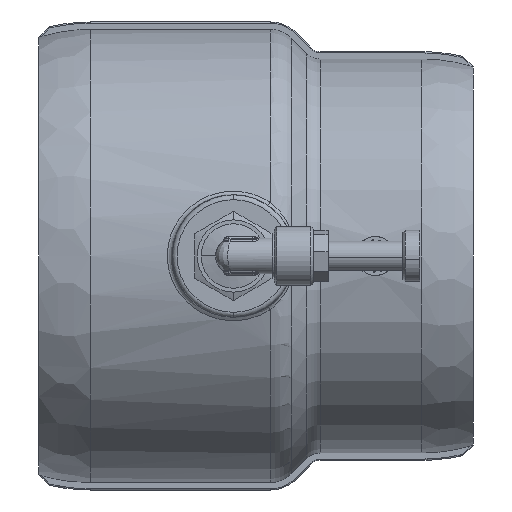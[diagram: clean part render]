
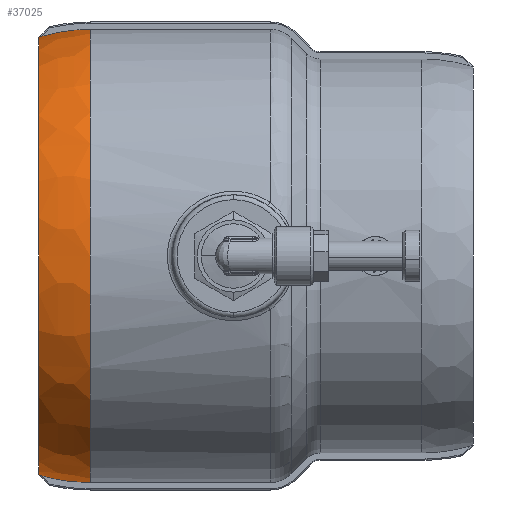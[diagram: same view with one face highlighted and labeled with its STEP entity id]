
A CAD part, front view. The second image highlights one B-rep face of the part: STEP entity #37025.
In plain terms, the highlighted toroidal (fillet/blend) face has major radius 11.3 mm and minor radius 35 mm.
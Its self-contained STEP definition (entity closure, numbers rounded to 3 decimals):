
#28444 = CARTESIAN_POINT ( 'NONE',  ( -39.254, -1., 44.828 ) ) ;
#28458 = CARTESIAN_POINT ( 'NONE',  ( -39.745, -0.805, -44.681 ) ) ;
#28480 = DIRECTION ( 'NONE',  ( 0., 0., 1. ) ) ;
#28481 = DIRECTION ( 'NONE',  ( -1., 0., 0. ) ) ;
#28482 = CARTESIAN_POINT ( 'NONE',  ( -29.247, 0., 0. ) ) ;
#28488 = CIRCLE ( 'NONE', #28492, 46.3 ) ;
#28492 = AXIS2_PLACEMENT_3D ( 'NONE', #28482, #28481, #28480 ) ;
#28511 = CARTESIAN_POINT ( 'NONE',  ( -29.247, -1., 46.289 ) ) ;
#28512 = CARTESIAN_POINT ( 'NONE',  ( -39.745, -0.805, 44.681 ) ) ;
#28519 = CARTESIAN_POINT ( 'NONE',  ( -29.247, -1., 46.289 ) ) ;
#28520 = CARTESIAN_POINT ( 'NONE',  ( -30.914, -1., 46.289 ) ) ;
#28521 = CARTESIAN_POINT ( 'NONE',  ( -32.58, -1., 46.171 ) ) ;
#28522 = CARTESIAN_POINT ( 'NONE',  ( -34.663, -1., 45.87 ) ) ;
#28523 = CARTESIAN_POINT ( 'NONE',  ( -35.078, -1., 45.803 ) ) ;
#28524 = CARTESIAN_POINT ( 'NONE',  ( -35.925, -1., 45.649 ) ) ;
#28525 = CARTESIAN_POINT ( 'NONE',  ( -36.347, -1., 45.564 ) ) ;
#28526 = CARTESIAN_POINT ( 'NONE',  ( -37.604, -1., 45.288 ) ) ;
#28527 = CARTESIAN_POINT ( 'NONE',  ( -38.433, -1., 45.073 ) ) ;
#28528 = CARTESIAN_POINT ( 'NONE',  ( -39.254, -1., 44.828 ) ) ;
#28529 = CARTESIAN_POINT ( 'NONE',  ( -39.747, 0., -44.688 ) ) ;
#28530 = B_SPLINE_CURVE_WITH_KNOTS ( 'NONE', 3,
 ( #28528, #28527, #28526, #28525, #28524, #28523, #28522, #28521, #28520, #28519 ),
 .UNSPECIFIED., .F., .F.,
 ( 4, 2, 2, 2, 4 ),
 ( 0.257, 0.26, 0.261, 0.262, 0.267 ),
 .UNSPECIFIED. ) ;
#28605 = CARTESIAN_POINT ( 'NONE',  ( -29.247, -1., -46.289 ) ) ;
#28630 = CARTESIAN_POINT ( 'NONE',  ( -39.726, -0.849, -44.687 ) ) ;
#28631 = CARTESIAN_POINT ( 'NONE',  ( -39.745, -0.805, -44.681 ) ) ;
#28632 = B_SPLINE_CURVE_WITH_KNOTS ( 'NONE', 3,
 ( #28631, #28630, #28680, #28679, #28678, #28677, #28676, #28675 ),
 .UNSPECIFIED., .F., .F.,
 ( 4, 2, 2, 4 ),
 ( 0., 0., 0., 0.001 ),
 .UNSPECIFIED. ) ;
#28647 = TOROIDAL_SURFACE ( 'NONE', #28672, 11.3, 35. ) ;
#28651 = DIRECTION ( 'NONE',  ( -1., 0., 0. ) ) ;
#28652 = CARTESIAN_POINT ( 'NONE',  ( -29.247, 0., 0. ) ) ;
#28655 = FACE_OUTER_BOUND ( 'NONE', #37026, .T. ) ;
#28657 = CARTESIAN_POINT ( 'NONE',  ( -39.254, -1., -44.828 ) ) ;
#28658 = CARTESIAN_POINT ( 'NONE',  ( -38.418, -1., -45.077 ) ) ;
#28659 = CARTESIAN_POINT ( 'NONE',  ( -37.572, -1., -45.296 ) ) ;
#28660 = CARTESIAN_POINT ( 'NONE',  ( -36.286, -1., -45.577 ) ) ;
#28661 = CARTESIAN_POINT ( 'NONE',  ( -35.8, -1., -45.673 ) ) ;
#28662 = CARTESIAN_POINT ( 'NONE',  ( -35.311, -1., -45.76 ) ) ;
#28663 = CARTESIAN_POINT ( 'NONE',  ( -35.203, -1., -45.779 ) ) ;
#28664 = CARTESIAN_POINT ( 'NONE',  ( -35.151, -1., -45.788 ) ) ;
#28665 = CARTESIAN_POINT ( 'NONE',  ( -34.997, -1., -45.814 ) ) ;
#28666 = CARTESIAN_POINT ( 'NONE',  ( -34.691, -1., -45.864 ) ) ;
#28667 = CARTESIAN_POINT ( 'NONE',  ( -34.384, -1., -45.911 ) ) ;
#28668 = CARTESIAN_POINT ( 'NONE',  ( -32.541, -1., -46.173 ) ) ;
#28669 = CARTESIAN_POINT ( 'NONE',  ( -30.897, -1., -46.289 ) ) ;
#28670 = CARTESIAN_POINT ( 'NONE',  ( -29.247, -1., -46.289 ) ) ;
#28672 = AXIS2_PLACEMENT_3D ( 'NONE', #28652, #28651, #28693 ) ;
#28674 = B_SPLINE_CURVE_WITH_KNOTS ( 'NONE', 3,
 ( #28670, #28669, #28668, #28667, #28666, #28665, #28664, #28663, #28662, #28661, #28660, #28659, #28658, #28657 ),
 .UNSPECIFIED., .F., .F.,
 ( 4, 2, 1, 2, 2, 1, 2, 4 ),
 ( 0.272, 0.277, 0.278, 0.278, 0.279, 0.279, 0.28, 0.283 ),
 .UNSPECIFIED. ) ;
#28675 = CARTESIAN_POINT ( 'NONE',  ( -39.254, -1., -44.828 ) ) ;
#28676 = CARTESIAN_POINT ( 'NONE',  ( -39.345, -1., -44.801 ) ) ;
#28677 = CARTESIAN_POINT ( 'NONE',  ( -39.437, -0.988, -44.773 ) ) ;
#28678 = CARTESIAN_POINT ( 'NONE',  ( -39.567, -0.948, -44.734 ) ) ;
#28679 = CARTESIAN_POINT ( 'NONE',  ( -39.61, -0.93, -44.721 ) ) ;
#28680 = CARTESIAN_POINT ( 'NONE',  ( -39.689, -0.881, -44.698 ) ) ;
#28681 = B_SPLINE_CURVE_WITH_KNOTS ( 'NONE', 3,
 ( #28725, #28724, #28723, #28722 ),
 .UNSPECIFIED., .F., .F.,
 ( 4, 4 ),
 ( 0.001, 0.002 ),
 .UNSPECIFIED. ) ;
#28683 = CARTESIAN_POINT ( 'NONE',  ( -39.745, -0.805, 44.681 ) ) ;
#28684 = CARTESIAN_POINT ( 'NONE',  ( -39.726, -0.849, 44.687 ) ) ;
#28685 = CARTESIAN_POINT ( 'NONE',  ( -39.688, -0.881, 44.698 ) ) ;
#28686 = CARTESIAN_POINT ( 'NONE',  ( -39.609, -0.93, 44.721 ) ) ;
#28687 = CARTESIAN_POINT ( 'NONE',  ( -39.566, -0.948, 44.734 ) ) ;
#28688 = CARTESIAN_POINT ( 'NONE',  ( -39.435, -0.989, 44.774 ) ) ;
#28689 = CARTESIAN_POINT ( 'NONE',  ( -39.345, -1., 44.801 ) ) ;
#28690 = CARTESIAN_POINT ( 'NONE',  ( -39.254, -1., 44.828 ) ) ;
#28691 = B_SPLINE_CURVE_WITH_KNOTS ( 'NONE', 3,
 ( #28690, #28689, #28688, #28687, #28686, #28685, #28684, #28683 ),
 .UNSPECIFIED., .F., .F.,
 ( 4, 2, 2, 4 ),
 ( 0., 0., 0., 0.001 ),
 .UNSPECIFIED. ) ;
#28692 = AXIS2_PLACEMENT_3D ( 'NONE', #28712, #28711, #28710 ) ;
#28693 = DIRECTION ( 'NONE',  ( 0., 0., 1. ) ) ;
#28696 = CARTESIAN_POINT ( 'NONE',  ( -39.747, 0., 44.688 ) ) ;
#28710 = DIRECTION ( 'NONE',  ( 0., 0., 1. ) ) ;
#28711 = DIRECTION ( 'NONE',  ( -1., 0., 0. ) ) ;
#28712 = CARTESIAN_POINT ( 'NONE',  ( -39.747, 0., 0. ) ) ;
#28715 = CARTESIAN_POINT ( 'NONE',  ( -39.745, -0.805, -44.681 ) ) ;
#28716 = CARTESIAN_POINT ( 'NONE',  ( -39.747, -0.537, -44.686 ) ) ;
#28717 = CARTESIAN_POINT ( 'NONE',  ( -39.747, -0.268, -44.688 ) ) ;
#28718 = CARTESIAN_POINT ( 'NONE',  ( -39.747, 0., -44.688 ) ) ;
#28719 = CIRCLE ( 'NONE', #28692, 44.688 ) ;
#28720 = B_SPLINE_CURVE_WITH_KNOTS ( 'NONE', 3,
 ( #28718, #28717, #28716, #28715 ),
 .UNSPECIFIED., .F., .F.,
 ( 4, 4 ),
 ( 0.001, 0.002 ),
 .UNSPECIFIED. ) ;
#28722 = CARTESIAN_POINT ( 'NONE',  ( -39.745, -0.805, 44.681 ) ) ;
#28723 = CARTESIAN_POINT ( 'NONE',  ( -39.747, -0.537, 44.686 ) ) ;
#28724 = CARTESIAN_POINT ( 'NONE',  ( -39.747, -0.268, 44.688 ) ) ;
#28725 = CARTESIAN_POINT ( 'NONE',  ( -39.747, 0., 44.688 ) ) ;
#28726 = CARTESIAN_POINT ( 'NONE',  ( -39.254, -1., -44.828 ) ) ;
#36971 = EDGE_CURVE ( 'NONE', #37002, #36981, #28488, .T. ) ;
#36973 = VERTEX_POINT ( 'NONE', #28458 ) ;
#36974 = EDGE_CURVE ( 'NONE', #36975, #36981, #28530, .T. ) ;
#36975 = VERTEX_POINT ( 'NONE', #28444 ) ;
#36977 = VERTEX_POINT ( 'NONE', #28529 ) ;
#36980 = VERTEX_POINT ( 'NONE', #28512 ) ;
#36981 = VERTEX_POINT ( 'NONE', #28511 ) ;
#36982 = ORIENTED_EDGE ( 'NONE', *, *, #37035, .F. ) ;
#37002 = VERTEX_POINT ( 'NONE', #28605 ) ;
#37011 = ORIENTED_EDGE ( 'NONE', *, *, #37033, .T. ) ;
#37012 = EDGE_CURVE ( 'NONE', #36973, #37037, #28632, .T. ) ;
#37014 = ORIENTED_EDGE ( 'NONE', *, *, #37012, .T. ) ;
#37015 = EDGE_CURVE ( 'NONE', #37002, #37037, #28674, .T. ) ;
#37025 = ADVANCED_FACE ( 'NONE', ( #28655 ), #28647, .T. ) ;
#37026 = EDGE_LOOP ( 'NONE', ( #37028, #37027, #37034, #36982, #37011, #37014, #37036, #37038 ) ) ;
#37027 = ORIENTED_EDGE ( 'NONE', *, *, #37029, .T. ) ;
#37028 = ORIENTED_EDGE ( 'NONE', *, *, #36974, .F. ) ;
#37029 = EDGE_CURVE ( 'NONE', #36975, #36980, #28691, .T. ) ;
#37031 = EDGE_CURVE ( 'NONE', #37032, #36980, #28681, .T. ) ;
#37032 = VERTEX_POINT ( 'NONE', #28696 ) ;
#37033 = EDGE_CURVE ( 'NONE', #36977, #36973, #28720, .T. ) ;
#37034 = ORIENTED_EDGE ( 'NONE', *, *, #37031, .F. ) ;
#37035 = EDGE_CURVE ( 'NONE', #36977, #37032, #28719, .T. ) ;
#37036 = ORIENTED_EDGE ( 'NONE', *, *, #37015, .F. ) ;
#37037 = VERTEX_POINT ( 'NONE', #28726 ) ;
#37038 = ORIENTED_EDGE ( 'NONE', *, *, #36971, .T. ) ;
